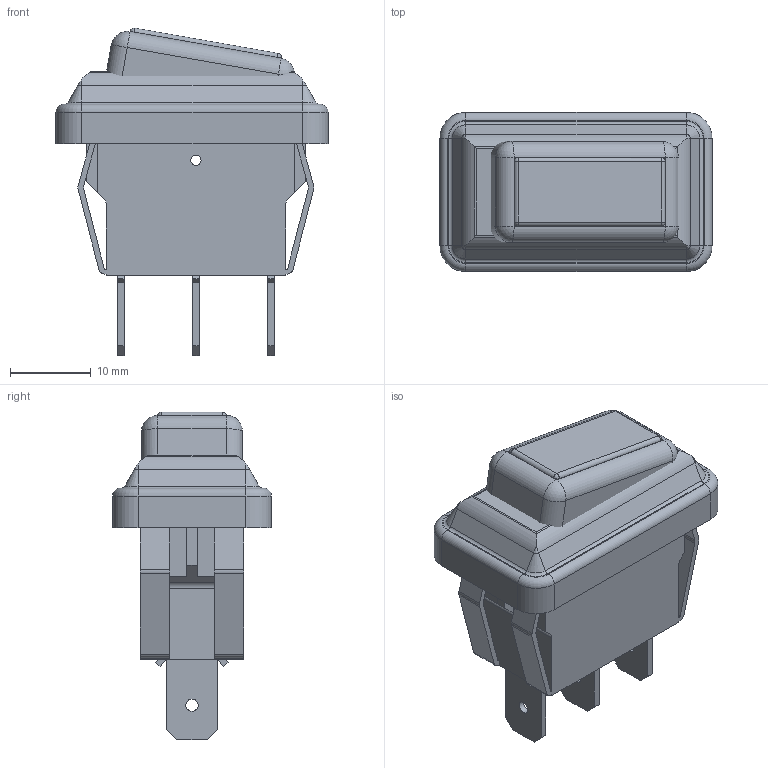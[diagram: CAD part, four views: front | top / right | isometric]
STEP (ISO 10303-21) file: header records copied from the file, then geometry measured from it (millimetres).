
FILE_DESCRIPTION(/* description */ (''),/* implementation_level */ '2;1');
FILE_NAME(/* name */ 'C:\Users\Hani\Desktop\work\RE2-1A-DC-1-AL\RE2-1A-DC-1-AL Rocker Switch.stp',/* time_stamp */ '2021-02-14T12:12:57-08:00',/* author */ ('Hani'),/* organization */ (''),/* preprocessor_version */ 'ST-DEVELOPER v17',/* originating_system */ 'Autodesk Inventor 2019',/* authorisation */ '');
FILE_SCHEMA (('AUTOMOTIVE_DESIGN { 1 0 10303 214 3 1 1 }'));
Length unit declared in the file: inch
Products named in the file (5): SRB1-2G-DC-1-NN Rocker Switch; ROCKER SWITCH; COVER; .187 terminal; LIGHT
Assembly tree (6 placements, depth 2):
  SRB1-2G-DC-1-NN Rocker Switch
    ROCKER SWITCH
    COVER
    .187 terminal  x3
    LIGHT
Bounding box: 33.7 x 19.7 x 40.6 mm (x, y, z)
Volume: 9744.2 mm3; surface area: 7855 mm2
Topology: 6 solids, 6 shells, 274 faces, 695 edges, 422 vertices
Faces by surface type: plane 139, cylinder 95, bspline 12, torus 12, sphere 8, cone 8
Full cylindrical faces by diameter (mm): 1.27 x2, 1.524 x3
Entity records: 7485 total; most frequent: CARTESIAN_POINT 1346, DIRECTION 1303, ORIENTED_EDGE 1218, EDGE_CURVE 609, AXIS2_PLACEMENT_3D 453, LINE 397, VECTOR 397, VERTEX_POINT 370
